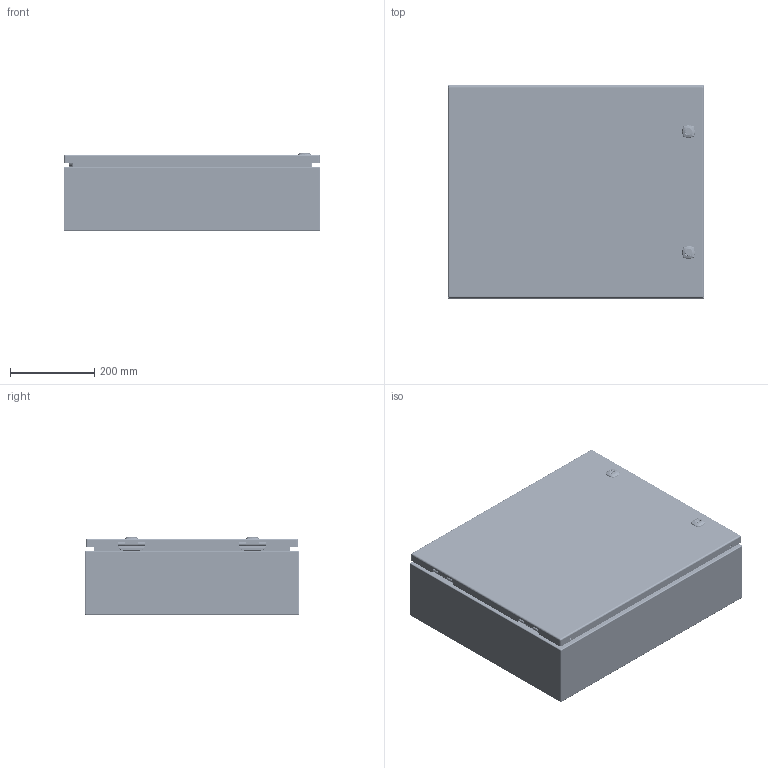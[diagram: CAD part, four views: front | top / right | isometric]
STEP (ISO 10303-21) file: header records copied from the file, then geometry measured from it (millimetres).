
FILE_DESCRIPTION(/* description */ ('5412ES 20" x 24" x 6" Assembly'),/* implementation_level */ '2;1');
FILE_NAME(/* name */ 'C:\Vault_Workspace\Inventor_Dwg\BoxCad\Result\5412ESB202406\e-mail\3D\5412ESB202406.stp',/* time_stamp */ '2022-03-11T18:42:02-05:00',/* author */ ('BoxCad'),/* organization */ (''),/* preprocessor_version */ 'ST-DEVELOPER v18.1',/* originating_system */ 'Autodesk Inventor 2020',/* authorisation */ '');
FILE_SCHEMA (('AUTOMOTIVE_DESIGN { 1 0 10303 214 3 1 1 }'));
Products named in the file (44): 5412ESB202406; 5412ESB202406B; 5412ESB202406B-P; STK-Q-16005; STUD_M6 x 16mm; STK-Q-07610; 881SP2420G; 881SP2420G-P; STK-Q-07310; 5412ESB202406C; 5412ESB202406C-P; 5412ESB202406G; STK-K-09800; STK-K-09800-2; STK-Q-33014; STK-Q-90398; STK-Q-40095; STK-Q-63410; STK-Q-16055; STK-Q-46020-20; STK-Q-07220-1; STK-Q-07220-2; STK-Q-07220-3; STK-Q-07220-4; STK-Q-07220-A; STK-Q-07220-B; STK-P-03820R; STK-S-00100; STK-A-880SCQ4-SL-1; STK-A-880SCQ4-SL-2; STK-Q-78110; STK-Q-78120; STK-Q-78145; STK-Q-03200; STK-Q-78125; STK-Q-78141; STK-Q-90390; STK-Q-78160; STK-Q-04050-07; STK-Q-04050-07-2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
Assembly tree (81 placements, depth 4):
  5412ESB202406
    5412ESB202406B
      5412ESB202406B-P
      STK-Q-16005  x4
      STK-P-03820R
      STUD_M6 x 16mm
    STK-Q-07610  x4
    881SP2420G
      881SP2420G-P
    STK-Q-07310  x4
    5412ESB202406C
      5412ESB202406C-P
      5412ESB202406G
      STK-K-09800
        STK-Q-33014
        STK-Q-90398
        STK-Q-40095  x2
        STK-Q-63410  x2
      STK-K-09800-2
        STK-Q-33014
        STK-Q-90398
        STK-Q-40095  x2
        STK-Q-63410  x2
      STK-Q-16055  x4
      STK-Q-46020-20  x2
      STK-Q-07220-1
        STK-Q-07220-A
        STK-Q-07220-B
      STK-Q-07220-2
        STK-Q-07220-A
        STK-Q-07220-B
      STK-Q-07220-3
        STK-Q-07220-A
        STK-Q-07220-B
      STK-Q-07220-4
        STK-Q-07220-A
        STK-Q-07220-B
      STK-P-03820R
      STK-S-00100
      STK-A-880SCQ4-SL-1
        STK-Q-78110
        STK-Q-78120
        STK-Q-78145
        STK-Q-03200
        STK-Q-78125
        STK-Q-78141
        STK-Q-90390
        STK-Q-78160
      STK-A-880SCQ4-SL-2
        STK-Q-78110
        STK-Q-78120
        STK-Q-78145
        STK-Q-03200
        STK-Q-78125
        STK-Q-78141
        STK-Q-90390
        STK-Q-78160
    STK-Q-04050-07
      STK-Q-04050-07-P
      STK-Q-04050-N
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Bounding box: 609.67 x 508 x 185.55 mm (x, y, z)
Volume: 2412902.3 mm3; surface area: 2952439 mm2
Topology: 64 solids, 64 shells, 9608 faces, 25796 edges, 16377 vertices
Faces by surface type: bspline 3404, plane 2753, cylinder 2476, torus 615, sphere 184, cone 176
Full cylindrical faces by diameter (mm): 0 x1, 0.75 x9, 0.762 x9, 1 x8, 1.1 x8, 3.2 x4, 4.191 x32, 4.5 x4, 4.521 x8, 4.75 x2, 4.85 x16, 4.95 x4, 5 x4, 5.1 x36, 5.156 x4, 5.6 x2, 5.9 x29, 6.015 x32, 6.65 x4, 6.8 x4, 6.85 x16, 7.3 x2, 7.366 x4, 7.9 x8, 8 x12, 8.382 x2, 9.5 x4, 9.6 x2, 9.906 x4, 10 x2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
Entity records: 154128 total; most frequent: CARTESIAN_POINT 63748, ORIENTED_EDGE 20710, DIRECTION 14985, EDGE_CURVE 10355, VERTEX_POINT 6555, AXIS2_PLACEMENT_3D 5480, EDGE_LOOP 4206, LINE 4025
